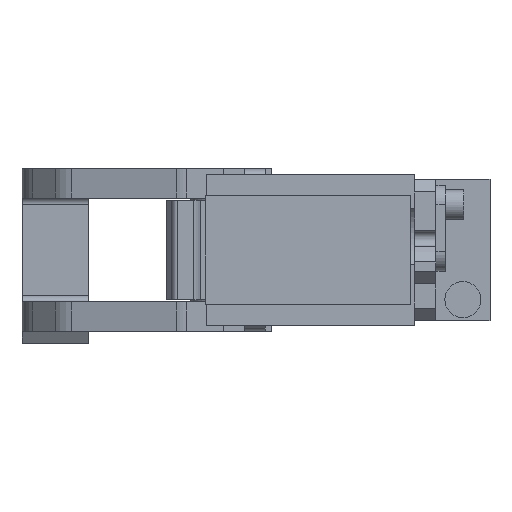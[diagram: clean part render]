
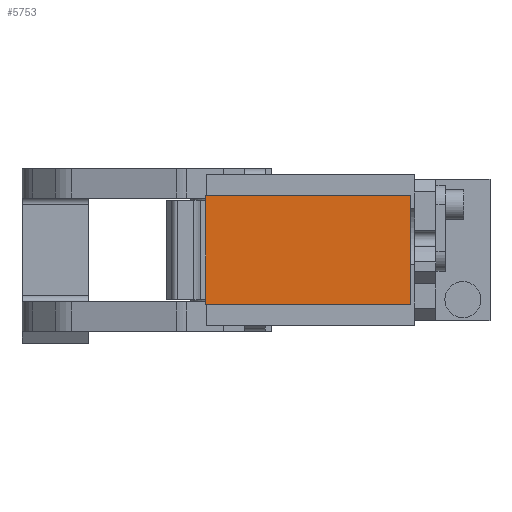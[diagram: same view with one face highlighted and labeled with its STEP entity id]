
A CAD part, front view. The second image highlights one B-rep face of the part: STEP entity #5753.
In plain terms, the highlighted planar face has unit normal (0, -1, 0).
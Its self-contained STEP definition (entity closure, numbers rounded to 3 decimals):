
#48 = AXIS2_PLACEMENT_3D ( 'NONE', #8347, #1546, #4075 ) ;
#90 = CARTESIAN_POINT ( 'NONE',  ( -6., -233., -18. ) ) ;
#1511 = VECTOR ( 'NONE', #9553, 1000. ) ;
#1546 = DIRECTION ( 'NONE',  ( 0., -1., 0. ) ) ;
#1899 = LINE ( 'NONE', #14087, #8545 ) ;
#2052 = CARTESIAN_POINT ( 'NONE',  ( 62., -233., 18. ) ) ;
#2698 = DIRECTION ( 'NONE',  ( 1., 0., 0. ) ) ;
#2754 = EDGE_CURVE ( 'NONE', #3807, #13535, #9896, .T. ) ;
#3240 = VERTEX_POINT ( 'NONE', #7026 ) ;
#3664 = EDGE_CURVE ( 'NONE', #3240, #3807, #13714, .T. ) ;
#3807 = VERTEX_POINT ( 'NONE', #10466 ) ;
#4075 = DIRECTION ( 'NONE',  ( 0., 0., -1. ) ) ;
#4210 = VECTOR ( 'NONE', #10928, 1000. ) ;
#5602 = CARTESIAN_POINT ( 'NONE',  ( -6., -233., 18. ) ) ;
#5753 = ADVANCED_FACE ( 'NONE', ( #8208 ), #12696, .T. ) ;
#5798 = CARTESIAN_POINT ( 'NONE',  ( 62., -233., -18. ) ) ;
#5915 = EDGE_LOOP ( 'NONE', ( #9906, #7279, #9853, #7273 ) ) ;
#6959 = DIRECTION ( 'NONE',  ( -1., 0., 0. ) ) ;
#7026 = CARTESIAN_POINT ( 'NONE',  ( 62., -233., 18. ) ) ;
#7273 = ORIENTED_EDGE ( 'NONE', *, *, #3664, .T. ) ;
#7279 = ORIENTED_EDGE ( 'NONE', *, *, #11035, .T. ) ;
#8208 = FACE_OUTER_BOUND ( 'NONE', #5915, .T. ) ;
#8242 = VECTOR ( 'NONE', #6959, 1000. ) ;
#8347 = CARTESIAN_POINT ( 'NONE',  ( 0., -233., 0. ) ) ;
#8545 = VECTOR ( 'NONE', #2698, 1000. ) ;
#9298 = CARTESIAN_POINT ( 'NONE',  ( -6., -233., 18. ) ) ;
#9553 = DIRECTION ( 'NONE',  ( 0., 0., 1. ) ) ;
#9853 = ORIENTED_EDGE ( 'NONE', *, *, #10323, .T. ) ;
#9896 = LINE ( 'NONE', #5602, #4210 ) ;
#9906 = ORIENTED_EDGE ( 'NONE', *, *, #2754, .T. ) ;
#10323 = EDGE_CURVE ( 'NONE', #13487, #3240, #13167, .T. ) ;
#10466 = CARTESIAN_POINT ( 'NONE',  ( -6., -233., 18. ) ) ;
#10928 = DIRECTION ( 'NONE',  ( 0., 0., -1. ) ) ;
#11035 = EDGE_CURVE ( 'NONE', #13535, #13487, #1899, .T. ) ;
#12696 = PLANE ( 'NONE',  #48 ) ;
#13167 = LINE ( 'NONE', #2052, #1511 ) ;
#13487 = VERTEX_POINT ( 'NONE', #5798 ) ;
#13535 = VERTEX_POINT ( 'NONE', #90 ) ;
#13714 = LINE ( 'NONE', #9298, #8242 ) ;
#14087 = CARTESIAN_POINT ( 'NONE',  ( -6., -233., -18. ) ) ;
